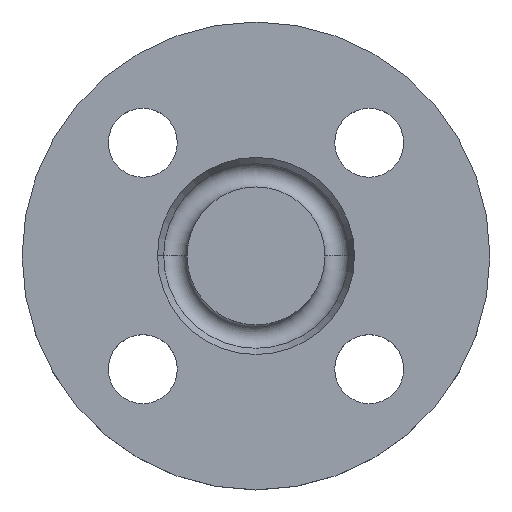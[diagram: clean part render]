
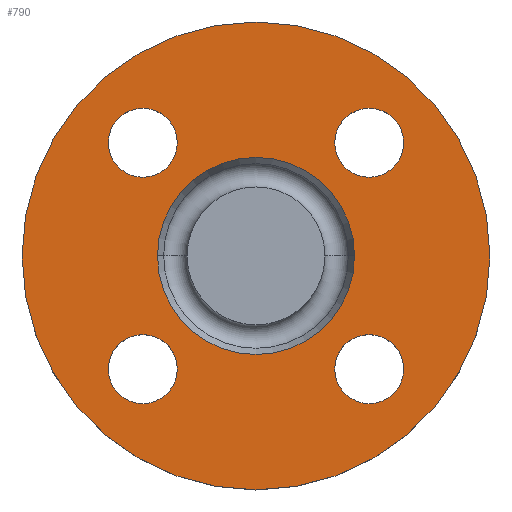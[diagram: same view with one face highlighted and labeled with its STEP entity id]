
A CAD part, top view. The second image highlights one B-rep face of the part: STEP entity #790.
In plain terms, the highlighted planar face has unit normal (0, 0, 1).
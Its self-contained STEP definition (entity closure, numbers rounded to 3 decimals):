
#4 = AXIS2_PLACEMENT_3D ( 'NONE', #439, #764, #8 ) ;
#6 = VERTEX_POINT ( 'NONE', #54 ) ;
#8 = DIRECTION ( 'NONE',  ( -1., 0., 0. ) ) ;
#11 = DIRECTION ( 'NONE',  ( 0., 0., -1. ) ) ;
#12 = VERTEX_POINT ( 'NONE', #708 ) ;
#17 = VERTEX_POINT ( 'NONE', #506 ) ;
#32 = ORIENTED_EDGE ( 'NONE', *, *, #767, .T. ) ;
#39 = DIRECTION ( 'NONE',  ( 1., 0., 0. ) ) ;
#46 = DIRECTION ( 'NONE',  ( 1., 0., 0. ) ) ;
#47 = ORIENTED_EDGE ( 'NONE', *, *, #812, .T. ) ;
#54 = CARTESIAN_POINT ( 'NONE',  ( 15.981, -22.981, -2. ) ) ;
#62 = EDGE_CURVE ( 'NONE', #474, #793, #482, .T. ) ;
#63 = ORIENTED_EDGE ( 'NONE', *, *, #757, .T. ) ;
#67 = VERTEX_POINT ( 'NONE', #471 ) ;
#72 = AXIS2_PLACEMENT_3D ( 'NONE', #600, #678, #538 ) ;
#73 = CARTESIAN_POINT ( 'NONE',  ( -47.5, 0., -2. ) ) ;
#81 = ORIENTED_EDGE ( 'NONE', *, *, #488, .T. ) ;
#88 = EDGE_CURVE ( 'NONE', #539, #835, #782, .T. ) ;
#95 = CARTESIAN_POINT ( 'NONE',  ( -15.981, 22.981, -2. ) ) ;
#97 = EDGE_CURVE ( 'NONE', #835, #539, #203, .T. ) ;
#99 = AXIS2_PLACEMENT_3D ( 'NONE', #322, #575, #641 ) ;
#102 = AXIS2_PLACEMENT_3D ( 'NONE', #174, #261, #458 ) ;
#103 = VERTEX_POINT ( 'NONE', #73 ) ;
#104 = CARTESIAN_POINT ( 'NONE',  ( 29.981, -22.981, -2. ) ) ;
#107 = ORIENTED_EDGE ( 'NONE', *, *, #196, .F. ) ;
#122 = VERTEX_POINT ( 'NONE', #168 ) ;
#124 = DIRECTION ( 'NONE',  ( 1., 0., 0. ) ) ;
#138 = EDGE_CURVE ( 'NONE', #67, #122, #813, .T. ) ;
#140 = AXIS2_PLACEMENT_3D ( 'NONE', #843, #255, #124 ) ;
#147 = EDGE_LOOP ( 'NONE', ( #763, #735 ) ) ;
#155 = CARTESIAN_POINT ( 'NONE',  ( 22.981, -22.981, -2. ) ) ;
#168 = CARTESIAN_POINT ( 'NONE',  ( 29.981, 22.981, -2. ) ) ;
#174 = CARTESIAN_POINT ( 'NONE',  ( 47.5, 0., -2. ) ) ;
#180 = CIRCLE ( 'NONE', #72, 20. ) ;
#184 = FACE_OUTER_BOUND ( 'NONE', #682, .T. ) ;
#196 = EDGE_CURVE ( 'NONE', #17, #103, #755, .T. ) ;
#203 = CIRCLE ( 'NONE', #576, 7. ) ;
#209 = AXIS2_PLACEMENT_3D ( 'NONE', #533, #833, #565 ) ;
#213 = EDGE_CURVE ( 'NONE', #6, #375, #578, .T. ) ;
#231 = ORIENTED_EDGE ( 'NONE', *, *, #62, .T. ) ;
#255 = DIRECTION ( 'NONE',  ( 0., 0., -1. ) ) ;
#260 = AXIS2_PLACEMENT_3D ( 'NONE', #714, #654, #389 ) ;
#261 = DIRECTION ( 'NONE',  ( 0., 0., 1. ) ) ;
#272 = CARTESIAN_POINT ( 'NONE',  ( -29.981, 22.981, -2. ) ) ;
#281 = ORIENTED_EDGE ( 'NONE', *, *, #213, .T. ) ;
#302 = DIRECTION ( 'NONE',  ( 0., 0., -1. ) ) ;
#310 = AXIS2_PLACEMENT_3D ( 'NONE', #497, #825, #594 ) ;
#322 = CARTESIAN_POINT ( 'NONE',  ( -22.981, -22.981, -2. ) ) ;
#323 = PLANE ( 'NONE',  #102 ) ;
#329 = CIRCLE ( 'NONE', #209, 7. ) ;
#333 = ORIENTED_EDGE ( 'NONE', *, *, #551, .F. ) ;
#344 = CARTESIAN_POINT ( 'NONE',  ( -22.981, 22.981, -2. ) ) ;
#354 = AXIS2_PLACEMENT_3D ( 'NONE', #809, #736, #405 ) ;
#358 = FACE_BOUND ( 'NONE', #433, .T. ) ;
#359 = VERTEX_POINT ( 'NONE', #699 ) ;
#361 = FACE_BOUND ( 'NONE', #507, .T. ) ;
#375 = VERTEX_POINT ( 'NONE', #104 ) ;
#389 = DIRECTION ( 'NONE',  ( 1., 0., 0. ) ) ;
#405 = DIRECTION ( 'NONE',  ( -1., 0., 0. ) ) ;
#422 = CARTESIAN_POINT ( 'NONE',  ( 0., 0., -2. ) ) ;
#428 = AXIS2_PLACEMENT_3D ( 'NONE', #422, #544, #848 ) ;
#433 = EDGE_LOOP ( 'NONE', ( #47, #281 ) ) ;
#439 = CARTESIAN_POINT ( 'NONE',  ( 0., 0., -2. ) ) ;
#458 = DIRECTION ( 'NONE',  ( 1., 0., 0. ) ) ;
#471 = CARTESIAN_POINT ( 'NONE',  ( 15.981, 22.981, -2. ) ) ;
#474 = VERTEX_POINT ( 'NONE', #841 ) ;
#482 = CIRCLE ( 'NONE', #4, 20. ) ;
#488 = EDGE_CURVE ( 'NONE', #12, #359, #577, .T. ) ;
#497 = CARTESIAN_POINT ( 'NONE',  ( -22.981, 22.981, -2. ) ) ;
#503 = CARTESIAN_POINT ( 'NONE',  ( 20., 0., -2. ) ) ;
#506 = CARTESIAN_POINT ( 'NONE',  ( 47.5, 0., -2. ) ) ;
#507 = EDGE_LOOP ( 'NONE', ( #63, #605 ) ) ;
#533 = CARTESIAN_POINT ( 'NONE',  ( 22.981, -22.981, -2. ) ) ;
#535 = FACE_BOUND ( 'NONE', #739, .T. ) ;
#538 = DIRECTION ( 'NONE',  ( -1., 0., 0. ) ) ;
#539 = VERTEX_POINT ( 'NONE', #95 ) ;
#541 = ORIENTED_EDGE ( 'NONE', *, *, #700, .T. ) ;
#544 = DIRECTION ( 'NONE',  ( 0., 0., -1. ) ) ;
#551 = EDGE_CURVE ( 'NONE', #103, #17, #823, .T. ) ;
#565 = DIRECTION ( 'NONE',  ( 1., 0., 0. ) ) ;
#575 = DIRECTION ( 'NONE',  ( 0., 0., -1. ) ) ;
#576 = AXIS2_PLACEMENT_3D ( 'NONE', #344, #11, #46 ) ;
#577 = CIRCLE ( 'NONE', #99, 7. ) ;
#578 = CIRCLE ( 'NONE', #718, 7. ) ;
#590 = FACE_BOUND ( 'NONE', #147, .T. ) ;
#594 = DIRECTION ( 'NONE',  ( 1., 0., 0. ) ) ;
#600 = CARTESIAN_POINT ( 'NONE',  ( 0., 0., -2. ) ) ;
#605 = ORIENTED_EDGE ( 'NONE', *, *, #138, .T. ) ;
#612 = FACE_BOUND ( 'NONE', #643, .T. ) ;
#621 = CIRCLE ( 'NONE', #260, 7. ) ;
#641 = DIRECTION ( 'NONE',  ( 1., 0., 0. ) ) ;
#643 = EDGE_LOOP ( 'NONE', ( #541, #231 ) ) ;
#654 = DIRECTION ( 'NONE',  ( 0., 0., -1. ) ) ;
#660 = AXIS2_PLACEMENT_3D ( 'NONE', #819, #302, #39 ) ;
#678 = DIRECTION ( 'NONE',  ( 0., 0., -1. ) ) ;
#682 = EDGE_LOOP ( 'NONE', ( #107, #333 ) ) ;
#699 = CARTESIAN_POINT ( 'NONE',  ( -29.981, -22.981, -2. ) ) ;
#700 = EDGE_CURVE ( 'NONE', #793, #474, #180, .T. ) ;
#708 = CARTESIAN_POINT ( 'NONE',  ( -15.981, -22.981, -2. ) ) ;
#714 = CARTESIAN_POINT ( 'NONE',  ( -22.981, -22.981, -2. ) ) ;
#718 = AXIS2_PLACEMENT_3D ( 'NONE', #155, #805, #776 ) ;
#731 = CIRCLE ( 'NONE', #140, 7. ) ;
#735 = ORIENTED_EDGE ( 'NONE', *, *, #97, .T. ) ;
#736 = DIRECTION ( 'NONE',  ( 0., 0., -1. ) ) ;
#739 = EDGE_LOOP ( 'NONE', ( #81, #32 ) ) ;
#755 = CIRCLE ( 'NONE', #428, 47.5 ) ;
#757 = EDGE_CURVE ( 'NONE', #122, #67, #731, .T. ) ;
#763 = ORIENTED_EDGE ( 'NONE', *, *, #88, .T. ) ;
#764 = DIRECTION ( 'NONE',  ( 0., 0., -1. ) ) ;
#767 = EDGE_CURVE ( 'NONE', #359, #12, #621, .T. ) ;
#776 = DIRECTION ( 'NONE',  ( 1., 0., 0. ) ) ;
#782 = CIRCLE ( 'NONE', #310, 7. ) ;
#790 = ADVANCED_FACE ( 'NONE', ( #358, #535, #590, #361, #612, #184 ), #323, .T. ) ;
#793 = VERTEX_POINT ( 'NONE', #503 ) ;
#805 = DIRECTION ( 'NONE',  ( 0., 0., -1. ) ) ;
#809 = CARTESIAN_POINT ( 'NONE',  ( 0., 0., -2. ) ) ;
#812 = EDGE_CURVE ( 'NONE', #375, #6, #329, .T. ) ;
#813 = CIRCLE ( 'NONE', #660, 7. ) ;
#819 = CARTESIAN_POINT ( 'NONE',  ( 22.981, 22.981, -2. ) ) ;
#823 = CIRCLE ( 'NONE', #354, 47.5 ) ;
#825 = DIRECTION ( 'NONE',  ( 0., 0., -1. ) ) ;
#833 = DIRECTION ( 'NONE',  ( 0., 0., -1. ) ) ;
#835 = VERTEX_POINT ( 'NONE', #272 ) ;
#841 = CARTESIAN_POINT ( 'NONE',  ( -20., 0., -2. ) ) ;
#843 = CARTESIAN_POINT ( 'NONE',  ( 22.981, 22.981, -2. ) ) ;
#848 = DIRECTION ( 'NONE',  ( -1., 0., 0. ) ) ;
